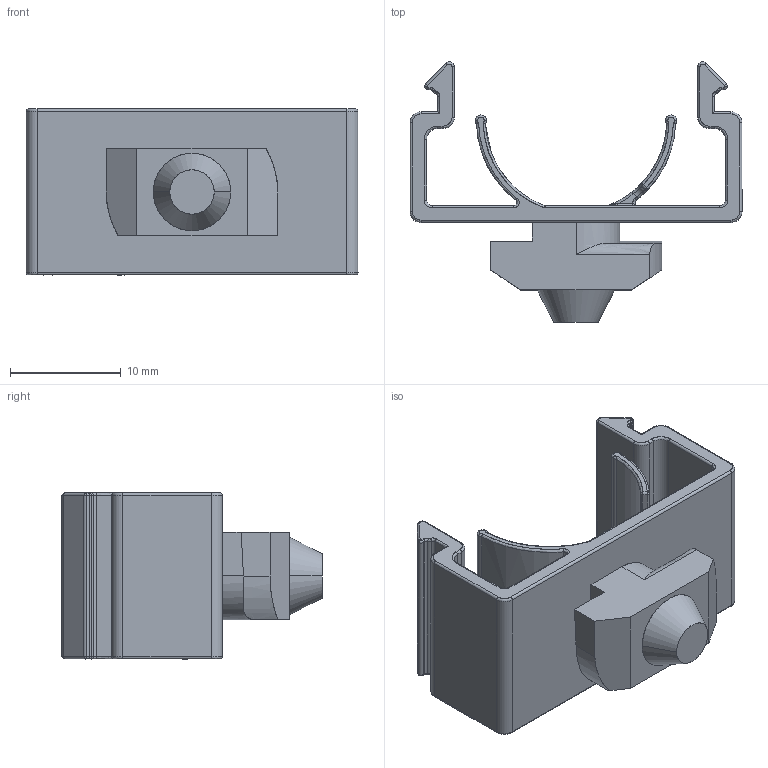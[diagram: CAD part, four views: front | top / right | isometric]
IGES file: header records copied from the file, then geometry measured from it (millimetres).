
Start section: SolidWorks IGES file using analytic representation for surfaces
Global section: file name: C:\Documents and Settings\Administrator\デスクトップ\5指定保存後5回目\SolidWorks\CP\SFA-DAP1.IGS; native system: SolidWorks 2006 by SolidWorks Corporation; preprocessor: SolidWorks 2006 by SolidWorks Corporation; author: Administrator; date: 061218.092416; units: millimetre
Bounding box: 30 x 23.5 x 15 mm (x, y, z)
Surface area: 2996.6 mm2 (no closed solid volume)
Topology: 0 solids, 0 shells, 222 faces, 4144 edges, 5161 vertices
Faces by surface type: bspline 124, revolution 98
